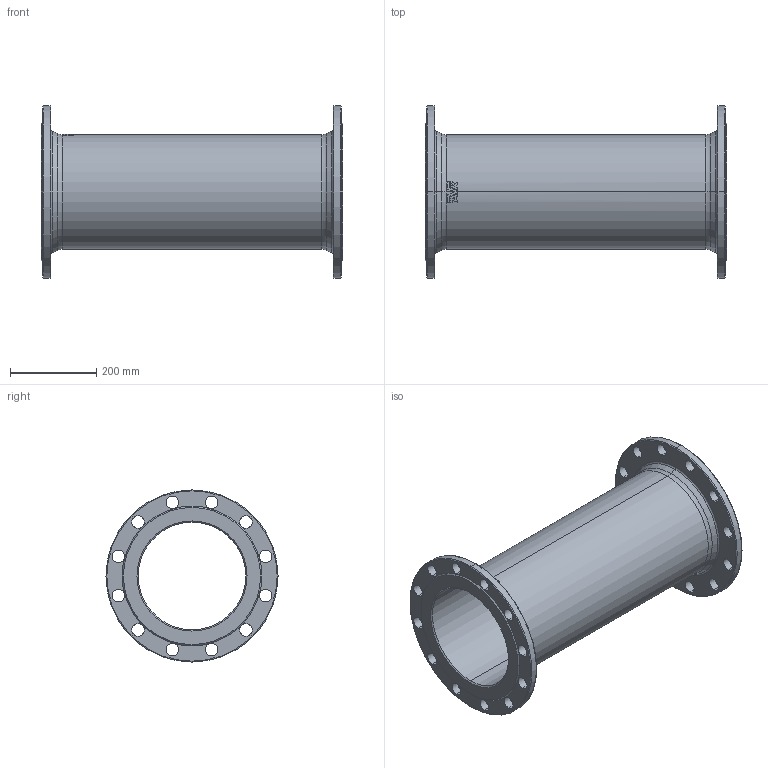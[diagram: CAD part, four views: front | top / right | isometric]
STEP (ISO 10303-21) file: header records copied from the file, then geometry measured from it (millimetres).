
FILE_DESCRIPTION (( 'STEP AP203' ), '1' );
FILE_NAME ('O_712_5010_DN250_1X_REV01.step', '2021-12-03T09:51:38', ( '' ), ( '' ), 'SwSTEP 2.0', 'SolidWorks 2019', '' );
FILE_SCHEMA (( 'CONFIG_CONTROL_DESIGN' ));
Length unit declared in the file: millimetre
Products named in the file (1): O_712_5010_DN250_1X_REV01
Bounding box: 700 x 400 x 400 mm (x, y, z)
Volume: 7218550.8 mm3; surface area: 1431775.4 mm2
Topology: 1 solids, 1 shells, 132 faces, 343 edges, 220 vertices
Faces by surface type: cylinder 61, plane 26, bspline 17, torus 16, cone 12
Entity records: 4890 total; most frequent: CARTESIAN_POINT 1415, DIRECTION 735, ORIENTED_EDGE 686, EDGE_CURVE 343, AXIS2_PLACEMENT_3D 310, VERTEX_POINT 220, CIRCLE 194, EDGE_LOOP 189
